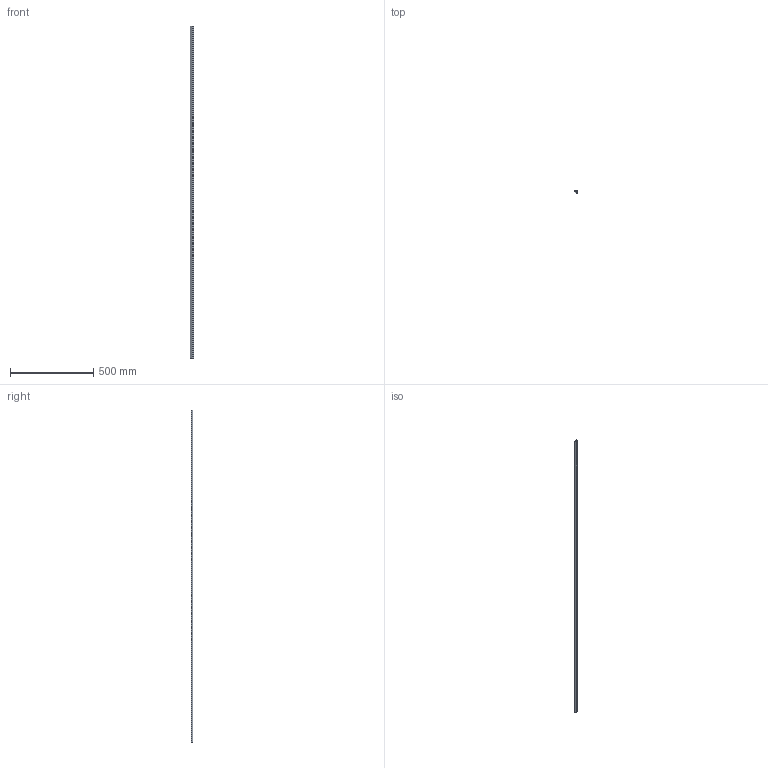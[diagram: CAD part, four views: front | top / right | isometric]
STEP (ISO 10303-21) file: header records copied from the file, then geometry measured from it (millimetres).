
FILE_DESCRIPTION (( 'STEP AP214' ), '1' );
FILE_NAME ('P20658L2.STEP', '2024-01-24T08:46:16', ( '' ), ( '' ), 'SwSTEP 2.0', 'SolidWorks 2022', '' );
FILE_SCHEMA (( 'AUTOMOTIVE_DESIGN' ));
Length unit declared in the file: millimetre
Products named in the file (1): P20658L2
Bounding box: 23 x 10 x 2000 mm (x, y, z)
Volume: 323880.9 mm3; surface area: 142314.1 mm2
Topology: 1 solids, 1 shells, 14 faces, 36 edges, 24 vertices
Faces by surface type: plane 12, cylinder 2
Entity records: 458 total; most frequent: CARTESIAN_POINT 75, ORIENTED_EDGE 72, DIRECTION 70, EDGE_CURVE 36, VECTOR 32, LINE 32, VERTEX_POINT 24, AXIS2_PLACEMENT_3D 19
